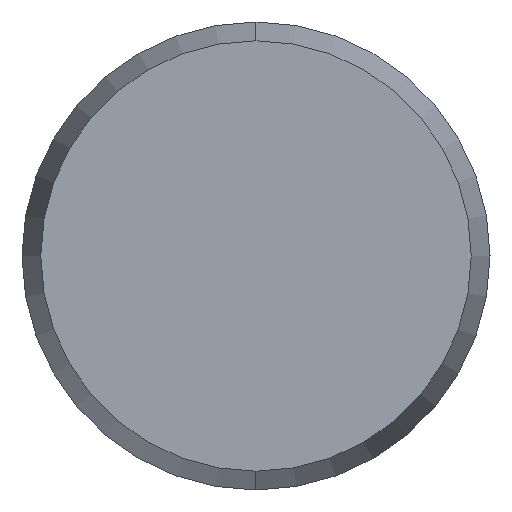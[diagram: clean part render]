
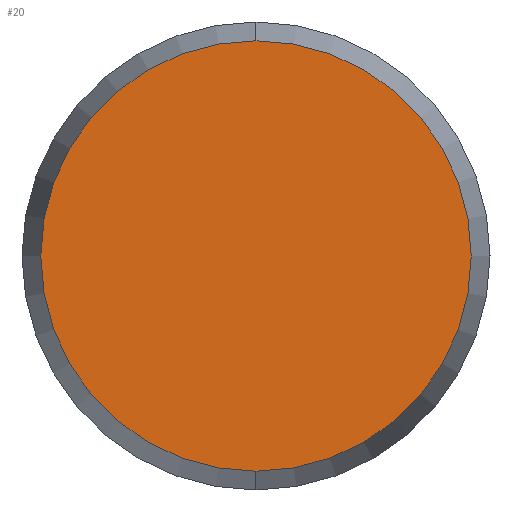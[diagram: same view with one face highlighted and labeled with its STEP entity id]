
A CAD part, left-side view. The second image highlights one B-rep face of the part: STEP entity #20.
In plain terms, the highlighted planar face has unit normal (-1, 0, 0).
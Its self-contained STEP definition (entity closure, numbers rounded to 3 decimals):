
#17 = EDGE_CURVE ( 'NONE', #33, #34, #50, .T. ) ;
#20 = ADVANCED_FACE ( 'NONE', ( #45 ), #44, .F. ) ;
#21 = EDGE_LOOP ( 'NONE', ( #22, #23 ) ) ;
#22 = ORIENTED_EDGE ( 'NONE', *, *, #35, .F. ) ;
#23 = ORIENTED_EDGE ( 'NONE', *, *, #17, .F. ) ;
#33 = VERTEX_POINT ( 'NONE', #109 ) ;
#34 = VERTEX_POINT ( 'NONE', #108 ) ;
#35 = EDGE_CURVE ( 'NONE', #34, #33, #107, .T. ) ;
#40 = DIRECTION ( 'NONE',  ( 0., 0., -1. ) ) ;
#41 = DIRECTION ( 'NONE',  ( 1., 0., 0. ) ) ;
#42 = CARTESIAN_POINT ( 'NONE',  ( -30., 0., 0. ) ) ;
#43 = AXIS2_PLACEMENT_3D ( 'NONE', #42, #41, #40 ) ;
#44 = PLANE ( 'NONE',  #43 ) ;
#45 = FACE_OUTER_BOUND ( 'NONE', #21, .T. ) ;
#46 = DIRECTION ( 'NONE',  ( 0., 0., -1. ) ) ;
#47 = DIRECTION ( 'NONE',  ( 1., 0., 0. ) ) ;
#48 = CARTESIAN_POINT ( 'NONE',  ( -30., 0., 0. ) ) ;
#49 = AXIS2_PLACEMENT_3D ( 'NONE', #48, #47, #46 ) ;
#50 = CIRCLE ( 'NONE', #49, 4.598 ) ;
#103 = DIRECTION ( 'NONE',  ( 0., 0., -1. ) ) ;
#104 = DIRECTION ( 'NONE',  ( 1., 0., 0. ) ) ;
#105 = CARTESIAN_POINT ( 'NONE',  ( -30., 0., 0. ) ) ;
#106 = AXIS2_PLACEMENT_3D ( 'NONE', #105, #104, #103 ) ;
#107 = CIRCLE ( 'NONE', #106, 4.598 ) ;
#108 = CARTESIAN_POINT ( 'NONE',  ( -30., 0., 4.598 ) ) ;
#109 = CARTESIAN_POINT ( 'NONE',  ( -30., 0., -4.598 ) ) ;
